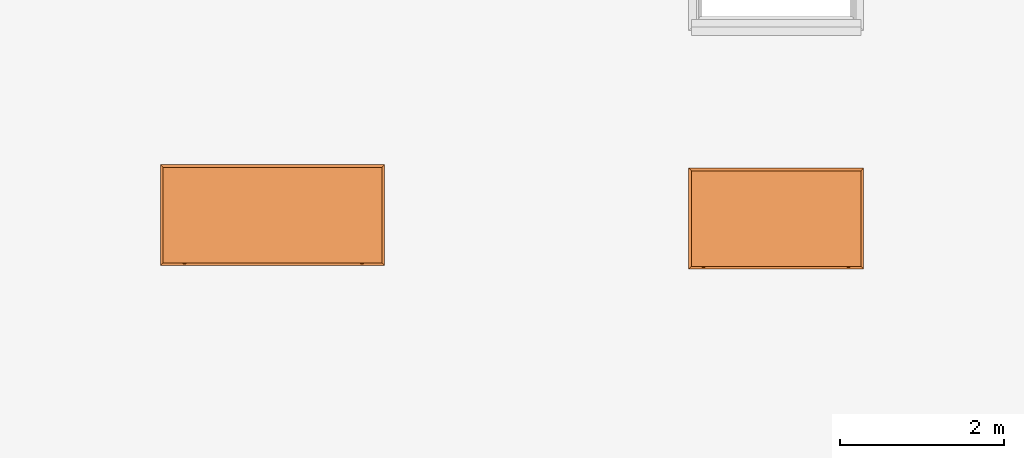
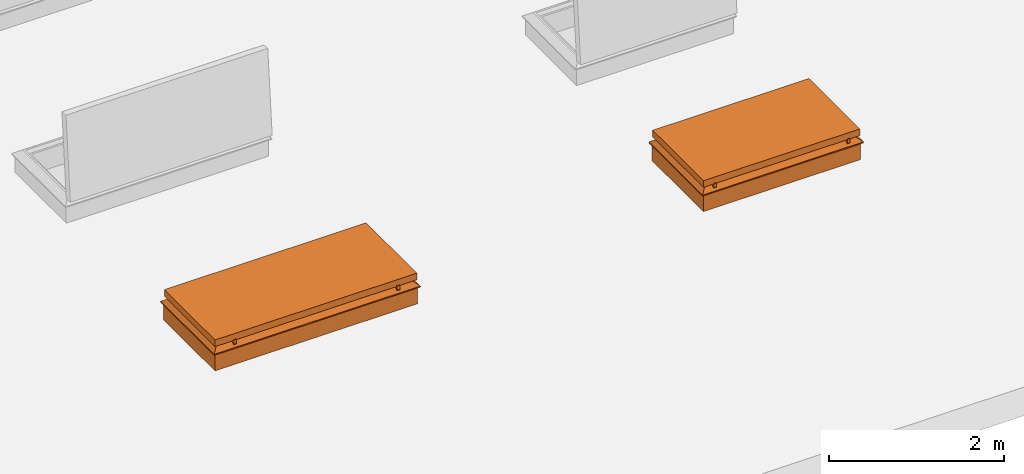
# One storey, part 14 of 28: 2 proxies.
"""IFC2X3 building model written with IfcOpenShell, lengths in millimetres."""

import ifcopenshell
import ifcopenshell.guid

model = None  # the IFC model being written
_history = None  # IfcOwnerHistory: only IFC2X3 demands one
_inside = {}  # id of a spatial element -> (the spatial element, [elements in it])
_under = {}  # id of a project, library or spatial element -> (it, [spatial elements below it])
_declared = {}  # id of a project -> (the project, [libraries it declares])
_typed = {}  # id of a type object -> (the type object, [elements of that type])
_made_of = {}  # id of a material, layer set ... -> (it, [elements and type objects made of it])


def new_model(schema):
    """Start an empty IFC model of exactly this schema.

    Asked for "IFC4X3", IfcOpenShell would pick the latest addendum, in which some entities
    have other attributes; the version numbers below select the first issue.
    IFC2X3 requires an IfcOwnerHistory on every rooted entity: one is made here for all.
    """
    global model, _history
    if schema == "IFC4X3":
        model = ifcopenshell.file(schema_version=(4, 3, 0, 0))
    else:
        model = ifcopenshell.file(schema=schema)
    _inside.clear()
    _under.clear()
    _declared.clear()
    _typed.clear()
    _made_of.clear()
    _history = None
    if model.schema == "IFC2X3":
        org = make("IfcOrganization", Name="unknown")
        user = make(
            "IfcPersonAndOrganization",
            ThePerson=make("IfcPerson", FamilyName="unknown"),
            TheOrganization=org,
        )
        app = make(
            "IfcApplication",
            ApplicationDeveloper=org,
            Version="unknown",
            ApplicationFullName="unknown",
            ApplicationIdentifier="unknown",
        )
        _history = make(
            "IfcOwnerHistory",
            OwningUser=user,
            OwningApplication=app,
            ChangeAction="ADDED",
            CreationDate=0,
        )
    return model


def make(cls, **values):
    """One entity of the class cls with the attributes given. An attribute that is None is left unset."""
    return model.create_entity(
        cls, **{name: value for name, value in values.items() if value is not None}
    )


def entity(cls, *values):
    """Any entity or typed value of the class cls, its attributes in the order of the schema. None: left unset."""
    e = model.create_entity(cls)
    for i, value in enumerate(values):
        if value is not None:
            e[i] = value
    return e


def rooted(cls, **values):
    """An entity with a GlobalId (a new one), such as an element, a storey or a relation."""
    return make(cls, GlobalId=ifcopenshell.guid.new(), OwnerHistory=_history, **values)


def si_unit(unit_type, name, prefix=None):
    """IfcSIUnit, for example si_unit("LENGTHUNIT", "METRE", prefix="MILLI")."""
    return make("IfcSIUnit", UnitType=unit_type, Prefix=prefix, Name=name)


def converted_unit(unit_type, name, factor, base, dimensions=None, offset=None):
    """IfcConversionBasedUnit, such as the inch: factor (a typed value) times the base unit."""
    return make(
        "IfcConversionBasedUnit"
        if offset is None
        else "IfcConversionBasedUnitWithOffset",
        ConversionOffset=offset,
        Dimensions=None
        if dimensions is None
        else entity("IfcDimensionalExponents", *dimensions),
        UnitType=unit_type,
        Name=name,
        ConversionFactor=make(
            "IfcMeasureWithUnit", ValueComponent=factor, UnitComponent=base
        ),
    )


def derived_unit(unit_type, elements):
    """IfcDerivedUnit: a product of units, each with its exponent."""
    return make(
        "IfcDerivedUnit",
        Elements=[
            make("IfcDerivedUnitElement", Unit=unit, Exponent=power)
            for unit, power in elements
        ],
        UnitType=unit_type,
    )


def assignment(units):
    """IfcUnitAssignment: the units of a project."""
    return None if units is None else make("IfcUnitAssignment", Units=units)


def point(xyz):
    """IfcCartesianPoint."""
    return None if xyz is None else make("IfcCartesianPoint", Coordinates=xyz)


def direction(xyz):
    """IfcDirection."""
    return None if xyz is None else make("IfcDirection", DirectionRatios=xyz)


def frame(location, z_axis=None, x_axis=None):
    """IfcAxis2Placement3D, a coordinate frame: its origin and axes. An axis left out is left unset."""
    return make(
        "IfcAxis2Placement3D",
        Location=point(location),
        Axis=direction(z_axis),
        RefDirection=direction(x_axis),
    )


def origin():
    """The frame at (0, 0, 0) with its axes left unset."""
    return frame((0.0, 0.0, 0.0))


def place(relative_to, where):
    """IfcLocalPlacement: puts the frame where relative to a parent placement (None: the world)."""
    return make(
        "IfcLocalPlacement", PlacementRelTo=relative_to, RelativePlacement=where
    )


def context(
    kind, dimensions, precision=None, world=None, true_north=None, identifier=None
):
    """IfcGeometricRepresentationContext, for example the 3D "Model" context."""
    return make(
        "IfcGeometricRepresentationContext",
        ContextIdentifier=identifier,
        ContextType=kind,
        CoordinateSpaceDimension=dimensions,
        Precision=precision,
        WorldCoordinateSystem=world,
        TrueNorth=true_north,
    )


def subcontext(parent, identifier, kind, view, scale=None):
    """IfcGeometricRepresentationSubContext, for example "Body" below "Model"."""
    return make(
        "IfcGeometricRepresentationSubContext",
        ContextIdentifier=identifier,
        ContextType=kind,
        ParentContext=parent,
        TargetScale=scale,
        TargetView=view,
    )


def project(units=None, contexts=None):
    """IfcProject with its units and contexts."""
    return rooted(
        "IfcProject",
        Name="project",
        RepresentationContexts=contexts,
        UnitsInContext=assignment(units),
    )


def spatial(cls, under=None, at=None, **own):
    """A site, building, storey or space (cls), placed at a placement, below another one or the project."""
    s = rooted(cls, ObjectPlacement=at, **own)
    if under is not None:
        _under.setdefault(under.id(), (under, []))[1].append(s)
    return s


def faces_of(points, faces, orient=None, outer=None):
    """IfcFace entities. A face is a list of loops; a loop is a list of indices into points, from 0.

    orient and outer hold one flag for each loop. By default every Orientation is true, the
    first loop of a face is its IfcFaceOuterBound and the others are IfcFaceBound.
    """
    made = []
    for i, loops in enumerate(faces):
        bounds = []
        for j, loop in enumerate(loops):
            is_outer = j == 0 if outer is None else outer[i][j]
            bounds.append(
                make(
                    "IfcFaceOuterBound" if is_outer else "IfcFaceBound",
                    Bound=make("IfcPolyLoop", Polygon=[points[k] for k in loop]),
                    Orientation=True if orient is None else orient[i][j],
                )
            )
        made.append(make("IfcFace", Bounds=bounds))
    return made


def faceted_brep(points, faces, orient=None, outer=None, voids=None):
    """IfcFacetedBrep: a solid bounded by flat faces; with voids (closed shells), ...WithVoids."""
    shared = [point(p) for p in points]
    hull = make("IfcClosedShell", CfsFaces=faces_of(shared, faces, orient, outer))
    if voids is None:
        return make("IfcFacetedBrep", Outer=hull)
    return make(
        "IfcFacetedBrepWithVoids",
        Outer=hull,
        Voids=[
            make(cls, CfsFaces=faces_of(shared, fs, o, b)) for cls, fs, o, b in voids
        ],
    )


def shape(context_of_items, identifier, shape_type, items):
    """IfcShapeRepresentation: the items that make up one representation, for example the "Body"."""
    return make(
        "IfcShapeRepresentation",
        ContextOfItems=context_of_items,
        RepresentationIdentifier=identifier,
        RepresentationType=shape_type,
        Items=items,
    )


def source(mapping_origin, context_of_items, identifier, shape_type, items):
    """IfcRepresentationMap: a shape defined once, which mapped items show again and again."""
    return make(
        "IfcRepresentationMap",
        MappingOrigin=mapping_origin,
        MappedRepresentation=shape(context_of_items, identifier, shape_type, items),
    )


def transform(
    local_origin,
    x_axis=None,
    y_axis=None,
    z_axis=None,
    scale=None,
    scale2=None,
    scale3=None,
    uniform=True,
):
    """IfcCartesianTransformationOperator3D, or its non-uniform kind. x_axis, y_axis, z_axis: its Axis1, 2, 3."""
    if uniform:
        return make(
            "IfcCartesianTransformationOperator3D",
            Axis1=direction(x_axis),
            Axis2=direction(y_axis),
            LocalOrigin=point(local_origin),
            Scale=scale,
            Axis3=direction(z_axis),
        )
    return make(
        "IfcCartesianTransformationOperator3DnonUniform",
        Axis1=direction(x_axis),
        Axis2=direction(y_axis),
        LocalOrigin=point(local_origin),
        Scale=scale,
        Axis3=direction(z_axis),
        Scale2=scale2,
        Scale3=scale3,
    )


def mapped(mapping_source, mapping_target):
    """IfcMappedItem: shows the shape of a source again, moved by a transform."""
    return make(
        "IfcMappedItem", MappingSource=mapping_source, MappingTarget=mapping_target
    )


def made_of(thing, what):
    """Note that an element or type object is made of a material, layer set ...; save() writes the relation."""
    if what is not None:
        _made_of.setdefault(what.id(), (what, []))[1].append(thing)
    return thing


def type_object(cls, material=None, **own):
    """A type object (cls), such as IfcWallType, which elements share."""
    return made_of(rooted(cls, **own), material)


def type_shapes(of_type, sources):
    """Give a type object the sources (RepresentationMaps) that its elements show as mapped items."""
    of_type.RepresentationMaps = sources


def element(
    cls,
    number,
    at=None,
    inside=None,
    cuts=None,
    type_object=None,
    material=None,
    context=None,
    identifier="Body",
    shape_type=None,
    held_by="IfcProductDefinitionShape",
    body=None,
    shapes=None,
    **own,
):
    """One element of the class cls, such as IfcWall. Its Tag is "e" and its number.

    at: its placement. inside: the storey or other place that contains it. cuts: it is an
    opening in that element (IfcRelVoidsElement). A single representation is given by context,
    identifier, shape_type and body (its items); several are given by shapes. held_by: the class
    of the entity that holds the representations. save() writes the other relations.
    """
    e = rooted(cls, Tag="e%d" % number, ObjectPlacement=at, **own)
    if body is not None:
        shapes = [shape(context, identifier, shape_type, body)]
    if shapes is not None:
        e.Representation = make(held_by, Representations=shapes)
    if inside is not None:
        _inside.setdefault(inside.id(), (inside, []))[1].append(e)
    if cuts is not None:
        rooted(
            "IfcRelVoidsElement", RelatingBuildingElement=cuts, RelatedOpeningElement=e
        )
    if type_object is not None:
        _typed.setdefault(type_object.id(), (type_object, []))[1].append(e)
    return made_of(e, material)


def aggregate(whole, parts):
    """IfcRelAggregates: a whole, such as a stair, and the parts it consists of."""
    return rooted("IfcRelAggregates", RelatingObject=whole, RelatedObjects=parts)


def save(model, path):
    """Write the relations noted so far, then the file.

    IfcRelAggregates (storeys below a building ...), IfcRelContainedInSpatialStructure (elements
    in a storey), IfcRelDefinesByType, IfcRelAssociatesMaterial and IfcRelDeclares: one each for
    every whole, place, type object, material and project.
    """
    for whole, parts in _under.values():
        aggregate(whole, parts)
    for where, things in _inside.values():
        rooted(
            "IfcRelContainedInSpatialStructure",
            RelatedElements=things,
            RelatingStructure=where,
        )
    for kind, things in _typed.values():
        rooted("IfcRelDefinesByType", RelatedObjects=things, RelatingType=kind)
    for what, things in _made_of.values():
        rooted("IfcRelAssociatesMaterial", RelatedObjects=things, RelatingMaterial=what)
    for by, libraries in _declared.values():
        rooted("IfcRelDeclares", RelatingContext=by, RelatedDefinitions=libraries)
    model.write(path)


model = new_model("IFC2X3")

# Units and contexts
model_context = context("Model", 3, precision=0.01, world=origin(), true_north=direction((6.12303176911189e-17, 1.0)))
body_context = subcontext(model_context, "Body", "Model", "MODEL_VIEW")
ifc_project = project(units=[si_unit("LENGTHUNIT", "METRE", prefix="MILLI"), si_unit("AREAUNIT", "SQUARE_METRE"), si_unit("VOLUMEUNIT", "CUBIC_METRE"), converted_unit("PLANEANGLEUNIT", "DEGREE", entity("IfcRatioMeasure", 0.0174532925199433), si_unit("PLANEANGLEUNIT", "RADIAN"), dimensions=[0, 0, 0, 0, 0, 0, 0]), si_unit("MASSUNIT", "GRAM", prefix="KILO"), derived_unit("MASSDENSITYUNIT", [(si_unit("MASSUNIT", "GRAM", prefix="KILO"), 1), (si_unit("LENGTHUNIT", "METRE"), -3)]), si_unit("TIMEUNIT", "SECOND"), si_unit("FREQUENCYUNIT", "HERTZ"), si_unit("THERMODYNAMICTEMPERATUREUNIT", "DEGREE_CELSIUS"), derived_unit("THERMALTRANSMITTANCEUNIT", [(si_unit("MASSUNIT", "GRAM", prefix="KILO"), 1), (si_unit("THERMODYNAMICTEMPERATUREUNIT", "KELVIN"), -1), (si_unit("TIMEUNIT", "SECOND"), -3)]), derived_unit("VOLUMETRICFLOWRATEUNIT", [(si_unit("LENGTHUNIT", "METRE"), 3), (si_unit("TIMEUNIT", "SECOND"), -1)]), si_unit("ELECTRICCURRENTUNIT", "AMPERE"), si_unit("ELECTRICVOLTAGEUNIT", "VOLT"), si_unit("POWERUNIT", "WATT"), si_unit("FORCEUNIT", "NEWTON", prefix="KILO"), si_unit("ILLUMINANCEUNIT", "LUX"), si_unit("LUMINOUSFLUXUNIT", "LUMEN"), si_unit("LUMINOUSINTENSITYUNIT", "CANDELA"), derived_unit("USERDEFINED", [(si_unit("MASSUNIT", "GRAM", prefix="KILO"), -1), (si_unit("LENGTHUNIT", "METRE"), -2), (si_unit("TIMEUNIT", "SECOND"), 3), (si_unit("LUMINOUSFLUXUNIT", "LUMEN"), 1)]), derived_unit("LINEARVELOCITYUNIT", [(si_unit("LENGTHUNIT", "METRE"), 1), (si_unit("TIMEUNIT", "SECOND"), -1)]), si_unit("PRESSUREUNIT", "PASCAL"), derived_unit("USERDEFINED", [(si_unit("LENGTHUNIT", "METRE"), -2), (si_unit("MASSUNIT", "GRAM", prefix="KILO"), 1), (si_unit("TIMEUNIT", "SECOND"), -2)])], contexts=[model_context])

# Site, building, storey
site_placement = place(None, origin())
site = spatial("IfcSite", under=ifc_project, at=site_placement, Name="Default", CompositionType="ELEMENT")
building_placement = place(site_placement, origin())
building = spatial("IfcBuilding", under=site, at=building_placement, CompositionType="ELEMENT")
storey_placement = place(building_placement, frame((0.0, 0.0, 4000.0)))
storey = spatial("IfcBuildingStorey", under=building, at=storey_placement, Name="Level 2", CompositionType="ELEMENT", Elevation=4000.0)

# Proxies
building_element_proxy_type_1 = type_object("IfcBuildingElementProxyType", Name="2400 x 900", PredefinedType="NOTDEFINED")
shared_shape_1 = source(origin(), body_context, "Body", "Brep", [
    faceted_brep([(-2421.30222365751, -351.544434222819, 276.006776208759), (-2421.30222365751, -361.481298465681, 288.427856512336), (-2421.30222365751, -362.009001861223, 290.420024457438), (-2421.30222365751, -361.907279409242, 292.478387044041), (-2421.30222365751, -354.714045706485, 338.058567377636), (-2421.30222365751, -353.91934137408, 339.862431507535), (-2421.30222365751, -352.710912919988, 341.419730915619), (-2421.30222365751, -351.160903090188, 342.637495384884), (-2421.30222365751, -349.361846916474, 343.443024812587), (-2421.30222365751, -347.421147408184, 343.788229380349), (-2421.30222365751, -345.454663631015, 343.65250049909), (-2421.30222365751, -343.579793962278, 343.043941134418), (-2421.30222365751, -341.908467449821, 341.998882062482), (-2421.30222365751, -340.540461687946, 340.579712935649), (-2421.30222365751, -339.557446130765, 338.871157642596), (-2421.30222365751, -339.01810645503, 336.975216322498), (-2421.30222365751, -338.954641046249, 335.00507599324), (-2421.30222365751, -339.3708387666, 333.078353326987), (-2421.30222365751, -340.241852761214, 331.310072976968), (-2421.30222365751, -340.511771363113, 328.317261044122), (-2421.30222365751, -338.595712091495, 326.002418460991), (-2421.30222365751, -304.692305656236, 313.488479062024), (-2385.21838034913, -304.692305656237, 313.488479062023), (-2385.21838034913, -351.544434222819, 276.006776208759), (-2385.21838034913, -338.595712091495, 326.002418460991), (-2385.21838034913, -340.241852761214, 331.310072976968), (-2385.21838034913, -340.511771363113, 328.317261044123), (-2385.21838034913, -353.91934137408, 339.862431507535), (-2385.21838034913, -354.714045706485, 338.058567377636), (-2385.21838034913, -352.710912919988, 341.419730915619), (-2385.21838034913, -349.361846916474, 343.443024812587), (-2385.21838034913, -347.421147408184, 343.788229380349), (-2385.21838034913, -351.160903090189, 342.637495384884), (-2385.21838034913, -345.454663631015, 343.65250049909), (-2385.21838034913, -343.579793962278, 343.043941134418), (-2385.21838034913, -340.540461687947, 340.579712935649), (-2385.21838034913, -341.908467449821, 341.998882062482), (-2385.21838034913, -339.557446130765, 338.871157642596), (-2385.21838034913, -338.954641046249, 335.00507599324), (-2385.21838034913, -339.3708387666, 333.078353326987), (-2385.21838034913, -339.01810645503, 336.975216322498), (-2398.68899764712, -361.907279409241, 292.478387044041), (-2385.21838034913, -361.907279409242, 292.478387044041), (-2385.21838034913, -362.009001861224, 290.420024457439), (-2405.69554851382, -362.019279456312, 290.525796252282), (-2385.21838034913, -361.481298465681, 288.427856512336), (-2407.83160635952, -361.48129846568, 288.427856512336)], [[[0, 1, 2, 3, 4, 5, 6, 7, 8, 9, 10, 11, 12, 13, 14, 15, 16, 17, 18, 19, 20, 21]], [[0, 21, 22, 23]], [[21, 20, 24, 22]], [[25, 26, 19, 18]], [[24, 20, 19, 26]], [[27, 5, 4, 28]], [[29, 6, 5, 27]], [[30, 31, 9, 8]], [[8, 7, 32, 30]], [[7, 6, 29, 32]], [[33, 10, 9, 31]], [[11, 10, 33, 34]], [[35, 13, 12, 36]], [[37, 14, 13, 35]], [[38, 39, 17, 16]], [[16, 15, 40, 38]], [[15, 14, 37, 40]], [[39, 25, 18, 17]], [[12, 11, 34, 36]], [[4, 3, 41, 42, 28]], [[41, 43, 42]], [[44, 45, 43]], [[43, 41, 44]], [[44, 2, 46]], [[3, 2, 44]], [[44, 46, 45]], [[3, 44, 41]], [[1, 46, 2]], [[1, 0, 23, 45, 46]], [[23, 22, 24, 26, 25, 39, 38, 40, 37, 35, 36, 34, 33, 31, 30, 32, 29, 27, 28, 42, 43, 45]]]),
    faceted_brep([(-264.700468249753, -351.54443422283, 276.006776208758), (-264.700468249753, -304.692305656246, 313.488479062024), (-226.128712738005, -304.692305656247, 313.488479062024), (-226.128712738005, -351.544434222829, 276.006776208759), (-264.700468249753, -338.595712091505, 326.002418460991), (-226.128712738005, -338.595712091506, 326.002418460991), (-226.128712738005, -340.241852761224, 331.310072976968), (-226.128712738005, -340.511771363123, 328.317261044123), (-264.700468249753, -340.511771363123, 328.317261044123), (-264.700468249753, -340.241852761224, 331.310072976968), (-226.128712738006, -353.91934137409, 339.862431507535), (-264.700468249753, -353.91934137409, 339.862431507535), (-264.700468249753, -354.714045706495, 338.058567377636), (-226.128712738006, -354.714045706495, 338.058567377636), (-226.128712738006, -352.710912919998, 341.419730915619), (-264.700468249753, -352.710912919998, 341.419730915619), (-264.700468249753, -349.361846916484, 343.443024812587), (-264.700468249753, -351.160903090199, 342.637495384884), (-226.128712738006, -351.160903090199, 342.637495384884), (-226.128712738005, -349.361846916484, 343.443024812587), (-226.128712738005, -347.421147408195, 343.788229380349), (-264.700468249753, -347.421147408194, 343.788229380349), (-226.128712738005, -345.454663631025, 343.65250049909), (-264.700468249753, -345.454663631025, 343.65250049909), (-226.128712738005, -343.579793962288, 343.043941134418), (-264.700468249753, -343.579793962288, 343.043941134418), (-226.128712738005, -341.908467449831, 341.998882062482), (-264.700468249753, -341.908467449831, 341.998882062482), (-226.128712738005, -340.540461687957, 340.579712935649), (-264.700468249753, -340.540461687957, 340.579712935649), (-264.700468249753, -339.01810645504, 336.975216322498), (-264.700468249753, -339.557446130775, 338.871157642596), (-226.128712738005, -339.557446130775, 338.871157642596), (-226.128712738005, -339.01810645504, 336.975216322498), (-226.128712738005, -338.954641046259, 335.00507599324), (-264.700468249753, -338.954641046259, 335.00507599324), (-226.128712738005, -339.37083876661, 333.078353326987), (-264.700468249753, -339.37083876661, 333.078353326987), (-264.700468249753, -361.907279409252, 292.478387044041), (-242.087239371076, -361.907279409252, 292.478387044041), (-226.128712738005, -361.907279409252, 292.478387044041), (-226.128712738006, -361.481298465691, 288.427856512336), (-226.128712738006, -362.009001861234, 290.420024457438), (-242.087238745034, -361.481298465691, 288.427856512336), (-264.700468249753, -361.481298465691, 288.427856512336), (-248.60150558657, -362.009001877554, 290.420024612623), (-264.700468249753, -362.009001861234, 290.420024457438)], [[[0, 1, 2, 3]], [[1, 4, 5, 2]], [[6, 7, 8, 9]], [[5, 4, 8, 7]], [[10, 11, 12, 13]], [[14, 15, 11, 10]], [[16, 17, 18, 19]], [[19, 20, 21, 16]], [[14, 18, 17, 15]], [[22, 23, 21, 20]], [[23, 22, 24, 25]], [[26, 27, 25, 24]], [[28, 29, 27, 26]], [[30, 31, 32, 33]], [[33, 34, 35, 30]], [[28, 32, 31, 29]], [[36, 37, 35, 34]], [[9, 37, 36, 6]], [[12, 38, 39, 40, 13]], [[41, 42, 43]], [[40, 39, 42]], [[44, 43, 45]], [[46, 44, 45]], [[45, 38, 46]], [[38, 45, 39]], [[39, 45, 42]], [[42, 45, 43]], [[0, 3, 41, 43, 44]], [[19, 18, 14, 10, 13, 40, 42, 41, 3, 2, 5, 7, 6, 36, 34, 33, 32, 28, 26, 24, 22, 20]], [[31, 30, 35, 37, 9, 8, 4, 1, 0, 44, 46, 38, 12, 11, 15, 17, 16, 21, 23, 25, 27, 29]]]),
    faceted_brep([(-61.2697623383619, 753.447095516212, 328.0), (30.7302376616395, 845.447095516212, 254.4), (-2693.26976233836, 845.447095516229, 254.4), (-2601.26976233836, 753.447095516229, 328.0), (-105.269762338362, 709.447095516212, 282.0), (-85.7439207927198, 728.972937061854, 328.0), (-2576.795603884, 728.97293706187, 328.0), (-2557.26976233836, 709.447095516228, 282.0), (-131.269762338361, 683.447095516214, 0.0), (-131.269762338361, 683.447095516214, 282.0), (-2531.26976233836, 683.447095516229, 282.0), (-2531.26976233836, 683.447095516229, 0.0), (4.73023766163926, 819.447095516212, 240.0), (4.73023766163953, 819.447095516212, 0.0), (-2667.26976233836, 819.447095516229, 0.0), (-2667.26976233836, 819.447095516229, 240.0), (30.7302376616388, 845.447095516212, 240.0), (-2693.26976233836, 845.447095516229, 240.0), (-2693.26976233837, -378.552904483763, 254.4), (-2601.26976233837, -286.552904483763, 328.0), (-2576.79560388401, -262.078746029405, 328.0), (-2557.26976233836, -242.552904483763, 282.0), (-2531.26976233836, -216.552904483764, 282.0), (-2531.26976233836, -216.552904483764, 0.0), (-2667.26976233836, -352.552904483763, 0.0), (-2667.26976233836, -352.552904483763, 240.0), (-2693.26976233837, -378.552904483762, 240.0), (30.7302376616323, -378.552904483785, 254.4), (-61.2697623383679, -286.552904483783, 328.0), (-85.7439207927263, -262.078746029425, 328.0), (-105.269762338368, -242.552904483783, 282.0), (-131.269762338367, -216.552904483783, 282.0), (-131.269762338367, -216.552904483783, 0.0), (4.73023766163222, -352.552904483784, 0.0), (4.73023766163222, -352.552904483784, 240.0), (30.7302376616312, -378.552904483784, 240.0)], [[[0, 1, 2, 3]], [[4, 5, 6, 7]], [[8, 9, 10, 11]], [[12, 13, 14, 15]], [[1, 16, 17, 2]], [[3, 2, 18, 19]], [[7, 6, 20, 21]], [[11, 10, 22, 23]], [[15, 14, 24, 25]], [[2, 17, 26, 18]], [[19, 18, 27, 28]], [[21, 20, 29, 30]], [[23, 22, 31, 32]], [[25, 24, 33, 34]], [[18, 26, 35, 27]], [[28, 27, 1, 0]], [[3, 19, 28, 0], [5, 29, 20, 6]], [[30, 29, 5, 4]], [[7, 21, 30, 4], [9, 31, 22, 10]], [[32, 31, 9, 8]], [[11, 23, 32, 8], [13, 33, 24, 14]], [[34, 33, 13, 12]], [[15, 25, 34, 12], [16, 35, 26, 17]], [[27, 35, 16, 1]]], outer=[[True], [True], [True], [True], [True], [True], [True], [True], [True], [True], [True], [True], [True], [True], [True], [True], [True, False], [True], [True, False], [True], [False, True], [True], [False, True], [True]]),
    faceted_brep([(-2533.97259076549, 682.684673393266, 426.399999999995), (-2533.97259076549, -218.415326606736, 426.399999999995), (-128.272590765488, -218.415326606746, 426.399999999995), (-128.272590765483, 682.684673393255, 426.399999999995), (-2533.97259076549, 682.684673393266, 287.0), (-128.272590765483, 682.684673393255, 287.0), (-128.272590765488, -218.415326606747, 287.0), (-2533.97259076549, -218.415326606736, 287.0)], [[[0, 1, 2, 3]], [[4, 5, 6, 7]], [[1, 0, 4, 7]], [[2, 1, 7, 6]], [[3, 2, 6, 5]], [[0, 3, 5, 4]]]),
    faceted_brep([(-128.272590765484, 682.684673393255, 287.0), (-128.272590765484, 682.684673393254, 426.399999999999), (-2533.97259076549, 682.684673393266, 426.399999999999), (-2533.97259076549, 682.684673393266, 287.0), (-85.2725907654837, 725.684673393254, 333.399999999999), (-102.872590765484, 708.084673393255, 287.0), (-2559.37259076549, 708.084673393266, 287.0), (-2576.97259076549, 725.684673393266, 333.399999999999), (0.727409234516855, 811.684673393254, 426.399999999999), (0.72740923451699, 811.684673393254, 333.399999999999), (-2662.97259076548, 811.684673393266, 333.399999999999), (-2662.97259076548, 811.684673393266, 426.399999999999), (-2533.97259076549, -218.415326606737, 426.399999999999), (-2533.97259076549, -218.415326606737, 287.0), (-2559.37259076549, -243.815326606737, 287.0), (-2576.97259076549, -261.415326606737, 333.399999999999), (-2662.97259076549, -347.415326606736, 333.399999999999), (-2662.97259076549, -347.415326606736, 426.399999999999), (-128.272590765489, -218.415326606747, 426.399999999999), (-128.272590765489, -218.415326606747, 287.0), (-102.872590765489, -243.815326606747, 287.0), (-85.2725907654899, -261.415326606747, 333.399999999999), (0.727409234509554, -347.415326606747, 333.399999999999), (0.727409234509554, -347.415326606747, 426.399999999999)], [[[0, 1, 2, 3]], [[4, 5, 6, 7]], [[8, 9, 10, 11]], [[3, 2, 12, 13]], [[7, 6, 14, 15]], [[11, 10, 16, 17]], [[13, 12, 18, 19]], [[15, 14, 20, 21]], [[17, 16, 22, 23]], [[19, 18, 1, 0]], [[3, 13, 19, 0], [5, 20, 14, 6]], [[21, 20, 5, 4]], [[7, 15, 21, 4], [9, 22, 16, 10]], [[23, 22, 9, 8]], [[1, 18, 12, 2], [11, 17, 23, 8]]], outer=[[True], [True], [True], [True], [True], [True], [True], [True], [True], [True], [False, True], [True], [False, True], [True], [False, True]]),
])
type_shapes(building_element_proxy_type_1, [shared_shape_1])
proxy_1_placement = place(storey_placement, frame((-16873.1072346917, -1459.66417936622, 400.0)))
element("IfcBuildingElementProxy", 1, at=proxy_1_placement, inside=storey, type_object=building_element_proxy_type_1, Name="5_Topaccess_dakluik_2400x900_Staka:2400 x 900", ObjectType="2400 x 900", context=body_context, shape_type="MappedRepresentation", body=[
    mapped(shared_shape_1, transform((0.0, 0.0, 0.0), scale=1.0)),
])
building_element_proxy_type_2 = type_object("IfcBuildingElementProxyType", Name="1800 x 900", PredefinedType="NOTDEFINED")
shared_shape_2 = source(origin(), body_context, "Body", "Brep", [
    faceted_brep([(-1631.26976233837, -341.462693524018, 337.452052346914), (-1631.26976233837, -341.488441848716, 335.779315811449), (-1631.26976233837, -341.532578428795, 334.060847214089), (-1631.26976233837, -341.190557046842, 332.37617996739), (-1631.26976233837, -340.479768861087, 330.81097630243), (-1631.26976233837, -339.436356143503, 329.444823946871), (-1631.26976233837, -338.113374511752, 328.347189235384), (-1631.26976233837, -336.578095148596, 327.573884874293), (-1631.26976233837, -302.711611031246, 315.073034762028), (-1631.26976233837, -349.563739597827, 277.591331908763), (-1631.26976233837, -356.620505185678, 286.412288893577), (-1631.26976233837, -357.994045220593, 289.380489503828), (-1631.26976233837, -358.771185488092, 292.557418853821), (-1631.26976233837, -358.922919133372, 295.824497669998), (-1631.26976233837, -354.679485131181, 338.870295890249), (-1631.26976233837, -353.959431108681, 340.38033982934), (-1631.26976233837, -352.892612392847, 341.668985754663), (-1631.26976233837, -351.543548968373, 342.658297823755), (-1631.26976233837, -349.993830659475, 343.288443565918), (-1631.26976233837, -348.337182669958, 343.521312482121), (-1631.26976233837, -346.673797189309, 343.342820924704), (-1631.26976233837, -345.104273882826, 342.763763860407), (-1631.26976233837, -343.723535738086, 341.819162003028), (-1631.26976233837, -342.615088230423, 340.566143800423), (-1631.26976233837, -341.845969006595, 339.080490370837), (-1594.51295834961, -302.711611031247, 315.073034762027), (-1594.51295834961, -349.563739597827, 277.591331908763), (-1594.51295834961, -356.620505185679, 286.412288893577), (-1594.51295834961, -357.994045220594, 289.380489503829), (-1594.51295834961, -358.771185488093, 292.557418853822), (-1594.51295834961, -358.922919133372, 295.824497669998), (-1594.51295834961, -354.679485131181, 338.870295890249), (-1594.51295834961, -353.959431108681, 340.380339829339), (-1594.51295834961, -352.892612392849, 341.668985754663), (-1594.51295834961, -351.543548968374, 342.658297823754), (-1594.51295834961, -349.993830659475, 343.288443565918), (-1594.51295834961, -348.337182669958, 343.52131248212), (-1594.51295834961, -346.673797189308, 343.342820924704), (-1594.51295834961, -343.723535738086, 341.819162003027), (-1594.51295834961, -345.104273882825, 342.763763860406), (-1594.51295834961, -342.615088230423, 340.566143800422), (-1594.51295834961, -341.845969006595, 339.080490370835), (-1594.51295834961, -341.462693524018, 337.452052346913), (-1594.51295834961, -341.488441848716, 335.779315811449), (-1594.51295834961, -341.532578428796, 334.060847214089), (-1594.51295834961, -341.190557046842, 332.376179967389), (-1594.51295834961, -340.479768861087, 330.810976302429), (-1594.51295834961, -338.113374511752, 328.347189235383), (-1594.51295834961, -336.578095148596, 327.573884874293), (-1594.51295834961, -339.436356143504, 329.44482394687)], [[[0, 1, 2, 3, 4, 5, 6, 7, 8, 9, 10, 11, 12, 13, 14, 15, 16, 17, 18, 19, 20, 21, 22, 23, 24]], [[9, 8, 25, 26]], [[10, 9, 26, 27]], [[27, 28, 11, 10]], [[28, 29, 12, 11]], [[29, 30, 13, 12]], [[14, 13, 30, 31]], [[15, 14, 31, 32]], [[33, 16, 15, 32]], [[18, 17, 34, 35]], [[17, 16, 33, 34]], [[36, 19, 18, 35]], [[20, 19, 36, 37]], [[38, 22, 21, 39]], [[40, 23, 22, 38]], [[0, 24, 41, 42]], [[40, 41, 24, 23]], [[1, 0, 42, 43]], [[39, 21, 20, 37]], [[44, 45, 3, 2]], [[43, 44, 2, 1]], [[46, 4, 3, 45]], [[47, 48, 7, 6]], [[49, 47, 6, 5]], [[49, 5, 4, 46]], [[8, 7, 48, 25]], [[26, 25, 48, 47, 49, 46, 45, 44, 43, 42, 41, 40, 38, 39, 37, 36, 35, 34, 33, 32, 31, 30, 29, 28, 27]]]),
    faceted_brep([(133.458717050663, -349.563739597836, 277.591331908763), (133.458717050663, -302.711611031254, 315.073034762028), (168.730237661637, -302.711611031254, 315.073034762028), (168.730237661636, -349.563739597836, 277.591331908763), (133.458717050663, -356.620505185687, 286.412288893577), (168.730237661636, -356.620505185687, 286.412288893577), (168.730237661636, -357.994045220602, 289.380489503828), (133.458717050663, -357.994045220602, 289.380489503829), (168.730237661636, -358.771185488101, 292.557418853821), (133.458717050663, -358.771185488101, 292.557418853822), (168.730237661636, -358.922919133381, 295.824497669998), (133.458717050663, -358.922919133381, 295.824497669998), (133.458717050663, -354.679485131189, 338.870295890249), (168.730237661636, -354.679485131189, 338.870295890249), (168.730237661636, -353.959431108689, 340.38033982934), (133.458717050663, -353.959431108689, 340.38033982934), (168.730237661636, -352.892612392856, 341.668985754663), (133.458717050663, -352.892612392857, 341.668985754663), (133.458717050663, -349.993830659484, 343.288443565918), (133.458717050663, -351.543548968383, 342.658297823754), (168.730237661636, -351.543548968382, 342.658297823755), (168.730237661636, -349.993830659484, 343.288443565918), (133.458717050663, -348.337182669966, 343.521312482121), (168.730237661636, -348.337182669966, 343.521312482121), (133.458717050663, -346.673797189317, 343.342820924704), (168.730237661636, -346.673797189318, 343.342820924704), (168.730237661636, -345.104273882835, 342.763763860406), (133.458717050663, -345.104273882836, 342.763763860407), (168.730237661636, -343.723535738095, 341.819162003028), (133.458717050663, -343.723535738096, 341.819162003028), (133.458717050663, -341.845969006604, 339.080490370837), (133.458717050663, -342.615088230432, 340.566143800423), (168.730237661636, -342.615088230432, 340.566143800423), (168.730237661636, -341.845969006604, 339.080490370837), (133.458717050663, -341.462693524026, 337.452052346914), (168.730237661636, -341.462693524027, 337.452052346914), (133.458717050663, -341.488441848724, 335.779315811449), (168.730237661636, -341.488441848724, 335.779315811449), (133.458717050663, -341.532578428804, 334.060847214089), (168.730237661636, -341.532578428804, 334.060847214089), (133.458717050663, -341.19055704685, 332.37617996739), (168.730237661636, -341.190557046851, 332.37617996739), (168.730237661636, -340.479768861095, 330.81097630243), (133.458717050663, -340.479768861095, 330.81097630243), (133.458717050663, -338.113374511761, 328.347189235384), (133.458717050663, -339.436356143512, 329.44482394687), (168.730237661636, -339.436356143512, 329.44482394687), (168.730237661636, -338.113374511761, 328.347189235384), (133.458717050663, -336.578095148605, 327.573884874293), (168.730237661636, -336.578095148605, 327.573884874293)], [[[0, 1, 2, 3]], [[4, 0, 3, 5]], [[5, 6, 7, 4]], [[6, 8, 9, 7]], [[8, 10, 11, 9]], [[12, 11, 10, 13]], [[14, 15, 12, 13]], [[16, 17, 15, 14]], [[18, 19, 20, 21]], [[16, 20, 19, 17]], [[22, 18, 21, 23]], [[24, 22, 23, 25]], [[26, 27, 24, 25]], [[28, 29, 27, 26]], [[30, 31, 32, 33]], [[28, 32, 31, 29]], [[34, 30, 33, 35]], [[36, 34, 35, 37]], [[38, 36, 37, 39]], [[40, 38, 39, 41]], [[42, 43, 40, 41]], [[44, 45, 46, 47]], [[48, 44, 47, 49]], [[46, 45, 43, 42]], [[1, 48, 49, 2]], [[5, 3, 2, 49, 47, 46, 42, 41, 39, 37, 35, 33, 32, 28, 26, 25, 23, 21, 20, 16, 14, 13, 10, 8, 6]], [[12, 15, 17, 19, 18, 22, 24, 27, 29, 31, 30, 34, 36, 38, 40, 43, 45, 44, 48, 1, 0, 4, 7, 9, 11]]]),
    faceted_brep([(238.730237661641, 753.447095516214, 328.0), (330.730237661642, 845.447095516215, 254.4), (-1793.26976233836, 845.447095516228, 254.4), (-1701.26976233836, 753.447095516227, 328.0), (194.730237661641, 709.447095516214, 282.0), (214.256079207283, 728.972937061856, 328.0), (-1676.795603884, 728.972937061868, 328.0), (-1657.26976233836, 709.447095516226, 282.0), (168.73023766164, 683.447095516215, 0.0), (168.73023766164, 683.447095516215, 282.0), (-1631.26976233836, 683.447095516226, 282.0), (-1631.26976233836, 683.447095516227, 0.0), (304.73023766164, 819.447095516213, 240.0), (304.730237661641, 819.447095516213, 0.0), (-1767.26976233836, 819.447095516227, 0.0), (-1767.26976233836, 819.447095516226, 240.0), (330.730237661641, 845.447095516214, 240.0), (-1793.26976233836, 845.447095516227, 240.0), (-1793.26976233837, -378.552904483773, 254.4), (-1701.26976233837, -286.552904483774, 328.0), (-1676.79560388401, -262.078746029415, 328.0), (-1657.26976233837, -242.552904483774, 282.0), (-1631.26976233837, -216.552904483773, 282.0), (-1631.26976233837, -216.552904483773, 0.0), (-1767.26976233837, -352.552904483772, 0.0), (-1767.26976233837, -352.552904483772, 240.0), (-1793.26976233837, -378.552904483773, 240.0), (330.730237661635, -378.552904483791, 254.4), (238.730237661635, -286.552904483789, 328.0), (214.256079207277, -262.078746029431, 328.0), (194.730237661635, -242.552904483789, 282.0), (168.730237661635, -216.552904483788, 282.0), (168.730237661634, -216.552904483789, 0.0), (304.730237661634, -352.552904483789, 0.0), (304.730237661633, -352.552904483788, 240.0), (330.730237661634, -378.552904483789, 240.0)], [[[0, 1, 2, 3]], [[4, 5, 6, 7]], [[8, 9, 10, 11]], [[12, 13, 14, 15]], [[1, 16, 17, 2]], [[3, 2, 18, 19]], [[7, 6, 20, 21]], [[11, 10, 22, 23]], [[15, 14, 24, 25]], [[2, 17, 26, 18]], [[19, 18, 27, 28]], [[21, 20, 29, 30]], [[23, 22, 31, 32]], [[25, 24, 33, 34]], [[18, 26, 35, 27]], [[28, 27, 1, 0]], [[3, 19, 28, 0], [5, 29, 20, 6]], [[30, 29, 5, 4]], [[7, 21, 30, 4], [9, 31, 22, 10]], [[32, 31, 9, 8]], [[11, 23, 32, 8], [13, 33, 24, 14]], [[34, 33, 13, 12]], [[15, 25, 34, 12], [16, 35, 26, 17]], [[27, 35, 16, 1]]], outer=[[True], [True], [True], [True], [True], [True], [True], [True], [True], [True], [True], [True], [True], [True], [True], [True], [True, False], [True], [True, False], [True], [False, True], [True], [False, True], [True]]),
    faceted_brep([(-1633.27259076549, 685.584673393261, 426.399999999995), (-1633.27259076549, -218.41532660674, 426.399999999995), (171.727409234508, -218.415326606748, 426.399999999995), (171.727409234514, 685.584673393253, 426.399999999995), (-1633.27259076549, 685.584673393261, 287.0), (171.727409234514, 685.584673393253, 287.0), (171.727409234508, -218.415326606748, 287.0), (-1633.27259076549, -218.41532660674, 287.0)], [[[0, 1, 2, 3]], [[4, 5, 6, 7]], [[1, 0, 4, 7]], [[2, 1, 7, 6]], [[3, 2, 6, 5]], [[0, 3, 5, 4]]]),
    faceted_brep([(171.727409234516, 685.584673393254, 287.0), (171.727409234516, 685.584673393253, 426.399999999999), (-1633.27259076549, 685.584673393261, 426.399999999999), (-1633.27259076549, 685.584673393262, 287.0), (214.727409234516, 728.584673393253, 333.399999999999), (197.127409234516, 710.984673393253, 287.0), (-1658.67259076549, 710.984673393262, 287.0), (-1676.27259076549, 728.584673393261, 333.399999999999), (300.727409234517, 814.584673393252, 426.399999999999), (300.727409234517, 814.584673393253, 333.399999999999), (-1762.27259076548, 814.584673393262, 333.399999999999), (-1762.27259076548, 814.584673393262, 426.399999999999), (-1633.27259076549, -218.415326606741, 426.399999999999), (-1633.27259076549, -218.415326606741, 287.0), (-1658.67259076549, -243.815326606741, 287.0), (-1676.27259076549, -261.41532660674, 333.399999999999), (-1762.27259076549, -347.41532660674, 333.399999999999), (-1762.27259076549, -347.41532660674, 426.399999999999), (171.72740923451, -218.415326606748, 426.399999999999), (171.72740923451, -218.415326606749, 287.0), (197.12740923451, -243.815326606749, 287.0), (214.72740923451, -261.415326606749, 333.399999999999), (300.727409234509, -347.415326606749, 333.399999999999), (300.727409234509, -347.415326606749, 426.399999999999)], [[[0, 1, 2, 3]], [[4, 5, 6, 7]], [[8, 9, 10, 11]], [[3, 2, 12, 13]], [[7, 6, 14, 15]], [[11, 10, 16, 17]], [[13, 12, 18, 19]], [[15, 14, 20, 21]], [[17, 16, 22, 23]], [[19, 18, 1, 0]], [[3, 13, 19, 0], [5, 20, 14, 6]], [[21, 20, 5, 4]], [[7, 15, 21, 4], [9, 22, 16, 10]], [[23, 22, 9, 8]], [[1, 18, 12, 2], [11, 17, 23, 8]]], outer=[[True], [True], [True], [True], [True], [True], [True], [True], [True], [True], [False, True], [True], [False, True], [True], [False, True]]),
])
type_shapes(building_element_proxy_type_2, [shared_shape_2])
proxy_2_placement = place(storey_placement, frame((-11350.7704168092, -1502.91010426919, 400.0)))
element("IfcBuildingElementProxy", 2, at=proxy_2_placement, inside=storey, type_object=building_element_proxy_type_2, Name="4_Topaccess_dakluik_1800x900_Staka:1800 x 900", ObjectType="1800 x 900", context=body_context, shape_type="MappedRepresentation", body=[
    mapped(shared_shape_2, transform((0.0, 0.0, 0.0), scale=1.0)),
])

save(model, "model.ifc")
